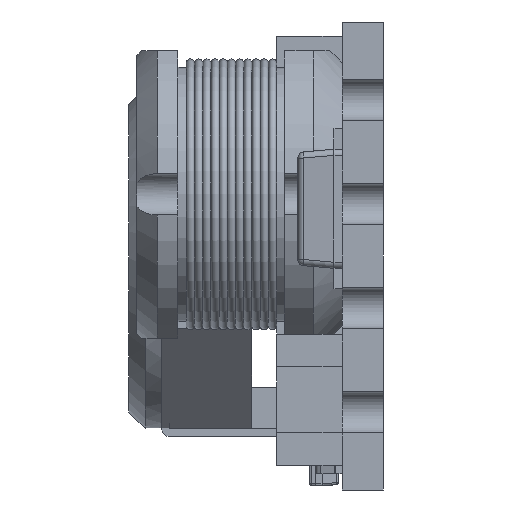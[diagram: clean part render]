
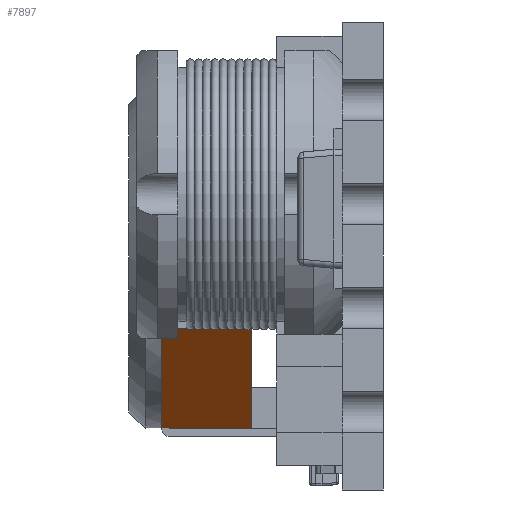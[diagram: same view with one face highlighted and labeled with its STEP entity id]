
A CAD part, left-side view. The second image highlights one B-rep face of the part: STEP entity #7897.
In plain terms, the highlighted planar face has unit normal (-0.707, 0, -0.707).
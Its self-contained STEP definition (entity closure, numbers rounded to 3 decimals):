
#7141 = VERTEX_POINT('',#7142);
#7142 = CARTESIAN_POINT('',(4.6,2.2,-1.769));
#7148 = EDGE_CURVE('',#7141,#7149,#7151,.T.);
#7149 = VERTEX_POINT('',#7150);
#7150 = CARTESIAN_POINT('',(7.031,2.2,-4.2));
#7151 = LINE('',#7152,#7153);
#7152 = CARTESIAN_POINT('',(7.031,2.2,-4.2));
#7153 = VECTOR('',#7154,1.);
#7154 = DIRECTION('',(0.707,0.,-0.707));
#7369 = VERTEX_POINT('',#7370);
#7370 = CARTESIAN_POINT('',(7.031,4.2,-4.2));
#7429 = EDGE_CURVE('',#7369,#7149,#7430,.T.);
#7430 = LINE('',#7431,#7432);
#7431 = CARTESIAN_POINT('',(7.031,4.4,-4.2));
#7432 = VECTOR('',#7433,1.);
#7433 = DIRECTION('',(0.,-1.,0.));
#7444 = VERTEX_POINT('',#7445);
#7445 = CARTESIAN_POINT('',(7.031,4.4,-4.2));
#7451 = EDGE_CURVE('',#7444,#7452,#7454,.T.);
#7452 = VERTEX_POINT('',#7453);
#7453 = CARTESIAN_POINT('',(5.816,4.4,-2.984));
#7454 = LINE('',#7455,#7456);
#7455 = CARTESIAN_POINT('',(7.031,4.4,-4.2));
#7456 = VECTOR('',#7457,1.);
#7457 = DIRECTION('',(-0.707,0.,0.707));
#7606 = EDGE_CURVE('',#7444,#7369,#7607,.T.);
#7607 = LINE('',#7608,#7609);
#7608 = CARTESIAN_POINT('',(7.031,4.4,-4.2));
#7609 = VECTOR('',#7610,1.);
#7610 = DIRECTION('',(0.,-1.,0.));
#7879 = EDGE_CURVE('',#7452,#7880,#7882,.T.);
#7880 = VERTEX_POINT('',#7881);
#7881 = CARTESIAN_POINT('',(4.6,4.4,-1.769));
#7882 = LINE('',#7883,#7884);
#7883 = CARTESIAN_POINT('',(7.031,4.4,-4.2));
#7884 = VECTOR('',#7885,1.);
#7885 = DIRECTION('',(-0.707,0.,0.707));
#7897 = ADVANCED_FACE('',(#7898),#7911,.T.);
#7898 = FACE_BOUND('',#7899,.T.);
#7899 = EDGE_LOOP('',(#7900,#7901,#7902,#7903,#7904,#7910));
#7900 = ORIENTED_EDGE('',*,*,#7451,.F.);
#7901 = ORIENTED_EDGE('',*,*,#7606,.T.);
#7902 = ORIENTED_EDGE('',*,*,#7429,.T.);
#7903 = ORIENTED_EDGE('',*,*,#7148,.F.);
#7904 = ORIENTED_EDGE('',*,*,#7905,.F.);
#7905 = EDGE_CURVE('',#7880,#7141,#7906,.T.);
#7906 = LINE('',#7907,#7908);
#7907 = CARTESIAN_POINT('',(4.6,4.4,-1.769));
#7908 = VECTOR('',#7909,1.);
#7909 = DIRECTION('',(0.,-1.,0.));
#7910 = ORIENTED_EDGE('',*,*,#7879,.F.);
#7911 = PLANE('',#7912);
#7912 = AXIS2_PLACEMENT_3D('',#7913,#7914,#7915);
#7913 = CARTESIAN_POINT('',(4.6,4.4,-1.769));
#7914 = DIRECTION('',(-0.707,0.,-0.707));
#7915 = DIRECTION('',(0.707,0.,-0.707));
